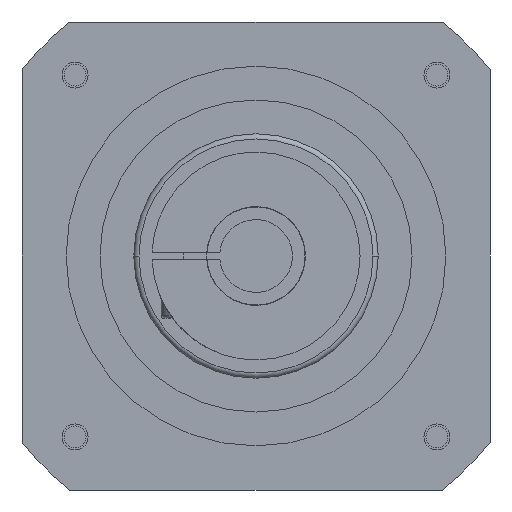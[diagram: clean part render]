
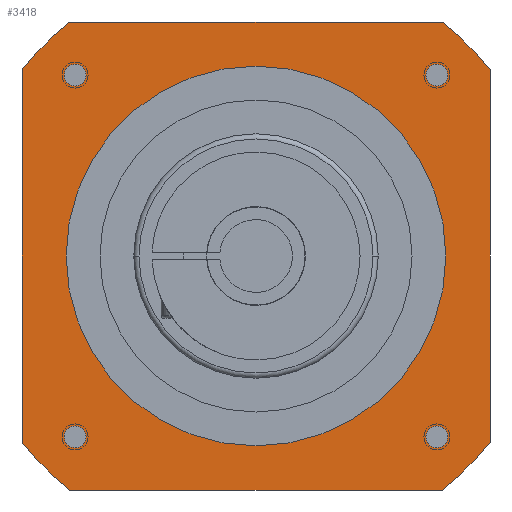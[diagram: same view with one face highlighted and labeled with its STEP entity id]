
A CAD part, left-side view. The second image highlights one B-rep face of the part: STEP entity #3418.
In plain terms, the highlighted planar face has unit normal (-1, 0, 0).
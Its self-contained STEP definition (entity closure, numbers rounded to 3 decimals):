
#712=CARTESIAN_POINT('',(0.,0.,0.));
#713=DIRECTION('',(-1.,0.,0.));
#714=DIRECTION('',(0.,-0.783,0.623));
#715=AXIS2_PLACEMENT_3D('',#712,#713,#714);
#717=DIRECTION('',(0.,0.,1.));
#718=VECTOR('',#717,71.589);
#719=CARTESIAN_POINT('',(0.,-45.,-35.795));
#720=LINE('',#719,#718);
#721=CARTESIAN_POINT('',(0.,0.,0.));
#722=DIRECTION('',(-1.,0.,0.));
#723=DIRECTION('',(0.,-0.623,-0.783));
#724=AXIS2_PLACEMENT_3D('',#721,#722,#723);
#726=DIRECTION('',(0.,-1.,0.));
#727=VECTOR('',#726,71.589);
#728=CARTESIAN_POINT('',(0.,35.795,-45.));
#729=LINE('',#728,#727);
#730=CARTESIAN_POINT('',(0.,0.,0.));
#731=DIRECTION('',(-1.,0.,0.));
#732=DIRECTION('',(0.,0.783,-0.623));
#733=AXIS2_PLACEMENT_3D('',#730,#731,#732);
#735=DIRECTION('',(0.,0.,-1.));
#736=VECTOR('',#735,71.589);
#737=CARTESIAN_POINT('',(0.,45.,35.795));
#738=LINE('',#737,#736);
#739=CARTESIAN_POINT('',(0.,0.,0.));
#740=DIRECTION('',(-1.,0.,0.));
#741=DIRECTION('',(0.,0.623,0.783));
#742=AXIS2_PLACEMENT_3D('',#739,#740,#741);
#744=DIRECTION('',(0.,1.,0.));
#745=VECTOR('',#744,71.589);
#746=CARTESIAN_POINT('',(0.,-35.795,45.));
#747=LINE('',#746,#745);
#748=CARTESIAN_POINT('',(0.,0.,0.));
#749=DIRECTION('',(1.,0.,0.));
#750=DIRECTION('',(0.,-1.,0.));
#751=AXIS2_PLACEMENT_3D('',#748,#749,#750);
#753=CARTESIAN_POINT('',(0.,0.,0.));
#754=DIRECTION('',(1.,0.,0.));
#755=DIRECTION('',(0.,1.,0.));
#756=AXIS2_PLACEMENT_3D('',#753,#754,#755);
#758=CARTESIAN_POINT('',(0.,-34.79,34.79));
#759=DIRECTION('',(-1.,0.,0.));
#760=DIRECTION('',(0.,0.,-1.));
#761=AXIS2_PLACEMENT_3D('',#758,#759,#760);
#763=CARTESIAN_POINT('',(0.,-34.79,34.79));
#764=DIRECTION('',(-1.,0.,0.));
#765=DIRECTION('',(0.,0.,1.));
#766=AXIS2_PLACEMENT_3D('',#763,#764,#765);
#768=CARTESIAN_POINT('',(0.,-34.79,-34.79));
#769=DIRECTION('',(-1.,0.,0.));
#770=DIRECTION('',(0.,0.,-1.));
#771=AXIS2_PLACEMENT_3D('',#768,#769,#770);
#773=CARTESIAN_POINT('',(0.,-34.79,-34.79));
#774=DIRECTION('',(-1.,0.,0.));
#775=DIRECTION('',(0.,0.,1.));
#776=AXIS2_PLACEMENT_3D('',#773,#774,#775);
#778=CARTESIAN_POINT('',(0.,34.79,-34.79));
#779=DIRECTION('',(-1.,0.,0.));
#780=DIRECTION('',(0.,0.,-1.));
#781=AXIS2_PLACEMENT_3D('',#778,#779,#780);
#783=CARTESIAN_POINT('',(0.,34.79,-34.79));
#784=DIRECTION('',(-1.,0.,0.));
#785=DIRECTION('',(0.,0.,1.));
#786=AXIS2_PLACEMENT_3D('',#783,#784,#785);
#788=CARTESIAN_POINT('',(0.,34.79,34.79));
#789=DIRECTION('',(-1.,0.,0.));
#790=DIRECTION('',(0.,0.,-1.));
#791=AXIS2_PLACEMENT_3D('',#788,#789,#790);
#793=CARTESIAN_POINT('',(0.,34.79,34.79));
#794=DIRECTION('',(-1.,0.,0.));
#795=DIRECTION('',(0.,0.,1.));
#796=AXIS2_PLACEMENT_3D('',#793,#794,#795);
#2083=CARTESIAN_POINT('',(0.,-45.,35.795));
#2084=CARTESIAN_POINT('',(0.,-35.795,45.));
#2085=VERTEX_POINT('',#2083);
#2086=VERTEX_POINT('',#2084);
#2087=CARTESIAN_POINT('',(0.,35.795,45.));
#2088=VERTEX_POINT('',#2087);
#2089=CARTESIAN_POINT('',(0.,45.,35.795));
#2090=VERTEX_POINT('',#2089);
#2091=CARTESIAN_POINT('',(0.,45.,-35.795));
#2092=VERTEX_POINT('',#2091);
#2093=CARTESIAN_POINT('',(0.,35.795,-45.));
#2094=VERTEX_POINT('',#2093);
#2095=CARTESIAN_POINT('',(0.,-35.795,-45.));
#2096=VERTEX_POINT('',#2095);
#2097=CARTESIAN_POINT('',(0.,-45.,-35.795));
#2098=VERTEX_POINT('',#2097);
#2115=CARTESIAN_POINT('',(0.,-36.51,0.));
#2116=CARTESIAN_POINT('',(0.,36.51,0.));
#2117=VERTEX_POINT('',#2115);
#2118=VERTEX_POINT('',#2116);
#2135=CARTESIAN_POINT('',(0.,-34.79,32.69));
#2136=CARTESIAN_POINT('',(0.,-34.79,36.89));
#2137=VERTEX_POINT('',#2135);
#2138=VERTEX_POINT('',#2136);
#2139=CARTESIAN_POINT('',(0.,-34.79,-36.89));
#2140=CARTESIAN_POINT('',(0.,-34.79,-32.69));
#2141=VERTEX_POINT('',#2139);
#2142=VERTEX_POINT('',#2140);
#2143=CARTESIAN_POINT('',(0.,34.79,-36.89));
#2144=CARTESIAN_POINT('',(0.,34.79,-32.69));
#2145=VERTEX_POINT('',#2143);
#2146=VERTEX_POINT('',#2144);
#2147=CARTESIAN_POINT('',(0.,34.79,32.69));
#2148=CARTESIAN_POINT('',(0.,34.79,36.89));
#2149=VERTEX_POINT('',#2147);
#2150=VERTEX_POINT('',#2148);
#3373=CARTESIAN_POINT('',(0.,0.,0.));
#3374=DIRECTION('',(-1.,0.,0.));
#3375=DIRECTION('',(0.,0.,-1.));
#3376=AXIS2_PLACEMENT_3D('',#3373,#3374,#3375);
#3377=PLANE('',#3376);
#3378=ORIENTED_EDGE('',*,*,#3263,.F.);
#3379=ORIENTED_EDGE('',*,*,#3278,.F.);
#3380=ORIENTED_EDGE('',*,*,#3292,.F.);
#3381=ORIENTED_EDGE('',*,*,#3306,.F.);
#3382=ORIENTED_EDGE('',*,*,#3326,.F.);
#3383=ORIENTED_EDGE('',*,*,#3340,.F.);
#3384=ORIENTED_EDGE('',*,*,#3354,.F.);
#3385=ORIENTED_EDGE('',*,*,#3367,.F.);
#3386=EDGE_LOOP('',(#3378,#3379,#3380,#3381,#3382,#3383,#3384,#3385));
#3387=FACE_OUTER_BOUND('',#3386,.F.);
#3389=ORIENTED_EDGE('',*,*,#3388,.F.);
#3391=ORIENTED_EDGE('',*,*,#3390,.F.);
#3392=EDGE_LOOP('',(#3389,#3391));
#3393=FACE_BOUND('',#3392,.F.);
#3395=ORIENTED_EDGE('',*,*,#3394,.T.);
#3397=ORIENTED_EDGE('',*,*,#3396,.T.);
#3398=EDGE_LOOP('',(#3395,#3397));
#3399=FACE_BOUND('',#3398,.F.);
#3401=ORIENTED_EDGE('',*,*,#3400,.T.);
#3403=ORIENTED_EDGE('',*,*,#3402,.T.);
#3404=EDGE_LOOP('',(#3401,#3403));
#3405=FACE_BOUND('',#3404,.F.);
#3407=ORIENTED_EDGE('',*,*,#3406,.T.);
#3409=ORIENTED_EDGE('',*,*,#3408,.T.);
#3410=EDGE_LOOP('',(#3407,#3409));
#3411=FACE_BOUND('',#3410,.F.);
#3413=ORIENTED_EDGE('',*,*,#3412,.T.);
#3415=ORIENTED_EDGE('',*,*,#3414,.T.);
#3416=EDGE_LOOP('',(#3413,#3415));
#3417=FACE_BOUND('',#3416,.F.);
#716=CIRCLE('',#715,57.5);
#725=CIRCLE('',#724,57.5);
#734=CIRCLE('',#733,57.5);
#743=CIRCLE('',#742,57.5);
#752=CIRCLE('',#751,36.51);
#757=CIRCLE('',#756,36.51);
#762=CIRCLE('',#761,2.1);
#767=CIRCLE('',#766,2.1);
#772=CIRCLE('',#771,2.1);
#777=CIRCLE('',#776,2.1);
#782=CIRCLE('',#781,2.1);
#787=CIRCLE('',#786,2.1);
#792=CIRCLE('',#791,2.1);
#797=CIRCLE('',#796,2.1);
#3263=EDGE_CURVE('',#2085,#2086,#716,.T.);
#3278=EDGE_CURVE('',#2098,#2085,#720,.T.);
#3292=EDGE_CURVE('',#2096,#2098,#725,.T.);
#3306=EDGE_CURVE('',#2094,#2096,#729,.T.);
#3326=EDGE_CURVE('',#2092,#2094,#734,.T.);
#3340=EDGE_CURVE('',#2090,#2092,#738,.T.);
#3354=EDGE_CURVE('',#2088,#2090,#743,.T.);
#3367=EDGE_CURVE('',#2086,#2088,#747,.T.);
#3388=EDGE_CURVE('',#2117,#2118,#752,.T.);
#3390=EDGE_CURVE('',#2118,#2117,#757,.T.);
#3394=EDGE_CURVE('',#2137,#2138,#762,.T.);
#3396=EDGE_CURVE('',#2138,#2137,#767,.T.);
#3400=EDGE_CURVE('',#2141,#2142,#772,.T.);
#3402=EDGE_CURVE('',#2142,#2141,#777,.T.);
#3406=EDGE_CURVE('',#2145,#2146,#782,.T.);
#3408=EDGE_CURVE('',#2146,#2145,#787,.T.);
#3412=EDGE_CURVE('',#2149,#2150,#792,.T.);
#3414=EDGE_CURVE('',#2150,#2149,#797,.T.);
#3418=ADVANCED_FACE('',(#3387,#3393,#3399,#3405,#3411,#3417),#3377,.T.);
